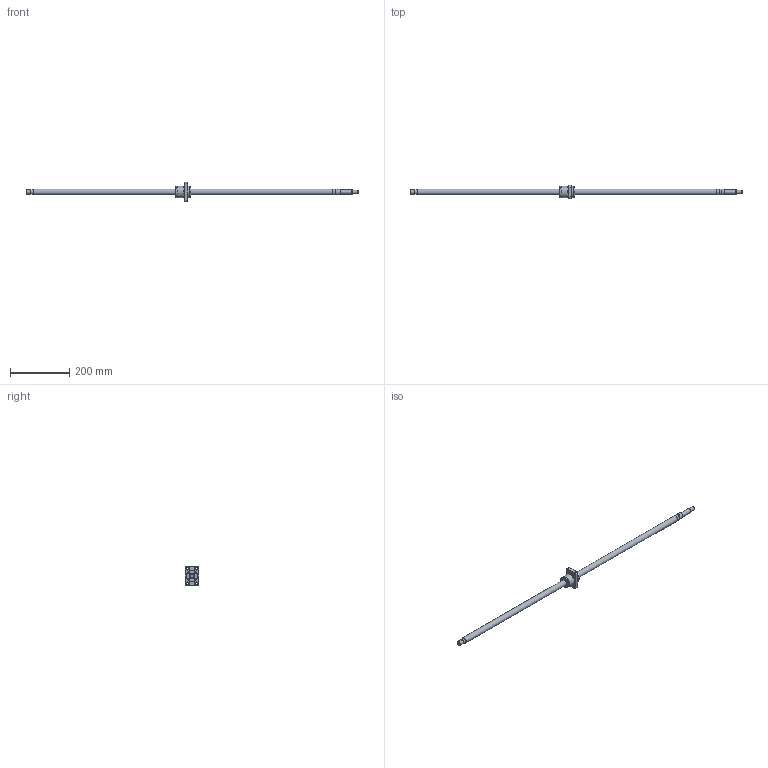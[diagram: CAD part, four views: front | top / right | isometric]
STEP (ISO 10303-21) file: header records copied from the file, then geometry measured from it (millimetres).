
FILE_DESCRIPTION(/* description */ ('STEP AP203'),/* implementation_level */ '2;1');
FILE_NAME(/* name */ 'BNK2020-3.6G0+1120LC5Y(5310)',/* time_stamp */ '2024-07-09T09:40:38+02:00',/* author */ ('License CC BY-ND 4.0'),/* organization */ ('CADENAS'),/* preprocessor_version */ 'ST-DEVELOPER v19.3',/* originating_system */ 'PARTsolutions',/* authorisation */ ' ');
FILE_SCHEMA (('CONFIG_CONTROL_DESIGN'));
Length unit declared in the file: millimetre
Products named in the file (3): BNK2020-3.6G0+1120LC5Y(5310); BNK 2020-3.6G0+1120LC5Y Shaft; BNK 2020-3.6G0+1120LC5Y0 Nut
Assembly tree (2 placements, depth 2):
  BNK2020-3.6G0+1120LC5Y(5310)
    BNK 2020-3.6G0+1120LC5Y Shaft
    BNK 2020-3.6G0+1120LC5Y0 Nut
Bounding box: 1120 x 46 x 66 mm (x, y, z)
Volume: 396882.8 mm3; surface area: 87064.2 mm2
Topology: 2 solids, 2 shells, 136 faces, 309 edges, 199 vertices
Faces by surface type: plane 75, cylinder 35, cone 20, torus 6
Full cylindrical faces by diameter (mm): 5.188 x1, 5.5 x4, 6.6 x4, 11 x4, 12 x1, 14.3 x1, 15 x3, 18 x1, 19.5 x1, 20 x2, 35.1 x1, 38 x2, 39 x2
Entity records: 3695 total; most frequent: CARTESIAN_POINT 671, DIRECTION 626, ORIENTED_EDGE 528, EDGE_CURVE 264, AXIS2_PLACEMENT_3D 247, FACE_BOUND 210, EDGE_LOOP 209, VERTEX_POINT 196
